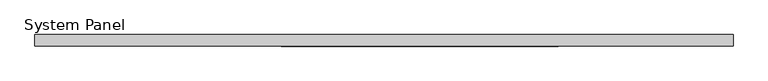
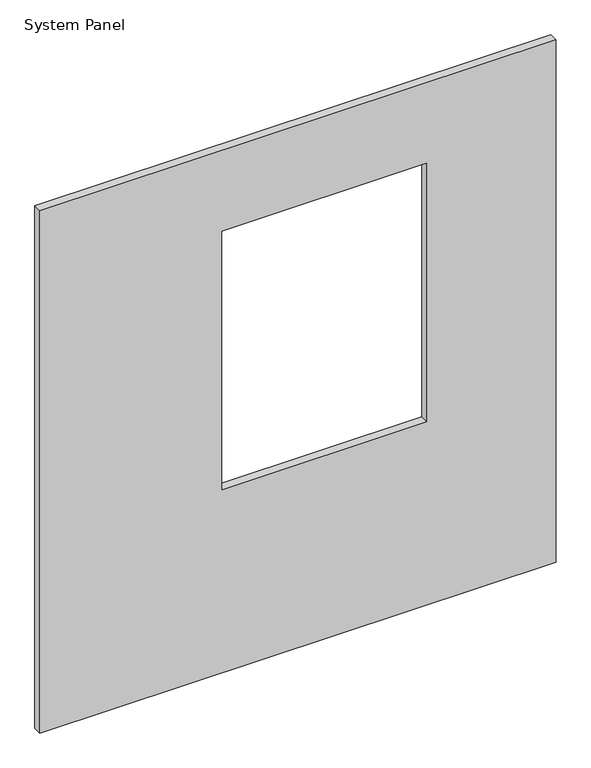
"""IFC4 building model written with IfcOpenShell, lengths in millimetres: plate geometry."""

from ifc_helpers import new_model, si_unit, frame, origin, place, context, project, spatial, polyline, outline, extrude, source, transform, mapped, element, save


def system_panel_3053a784(model_context):
    return source(origin(), model_context, "Body", "SweptSolid", [
        extrude(outline(polyline([(0.0, -1151.73125), (0.0, 1151.73125), (2463.8, 1151.73125), (2463.8, -1151.73125), (0.0, -1151.73125)]), holes=[polyline([(863.6, 575.46875), (863.6, -338.93125), (2082.8, -338.93125), (2082.8, 575.46875), (863.6, 575.46875)])]), frame((0.0, -19.05, 0.0), z_axis=(0.0, 1.0, 0.0), x_axis=(0.0, 0.0, 1.0)), (0.0, 0.0, 1.0), 38.1),
    ])


if __name__ == "__main__":
    model = new_model("IFC4")
    model_context = context("Model", 3, world=origin())
    ifc_project = project(units=[si_unit("LENGTHUNIT", "METRE", prefix="MILLI")], contexts=[model_context])
    site = spatial("IfcSite", under=ifc_project)
    building = spatial("IfcBuilding", under=site)
    placement = place(None, origin())
    system_panel_shape = system_panel_3053a784(model_context)
    element("IfcPlate", 1, ObjectType="System Panel : 1/2\" Plywood & 1\" Rigid Ins.", at=placement, inside=building, context=model_context, shape_type="MappedRepresentation", body=[
        mapped(system_panel_shape, transform((0.0, 0.0, 0.0), x_axis=(1.0, 0.0, 0.0), y_axis=(0.0, 1.0, 0.0), z_axis=(0.0, 0.0, 1.0))),
    ])
    save(model, "model.ifc")
